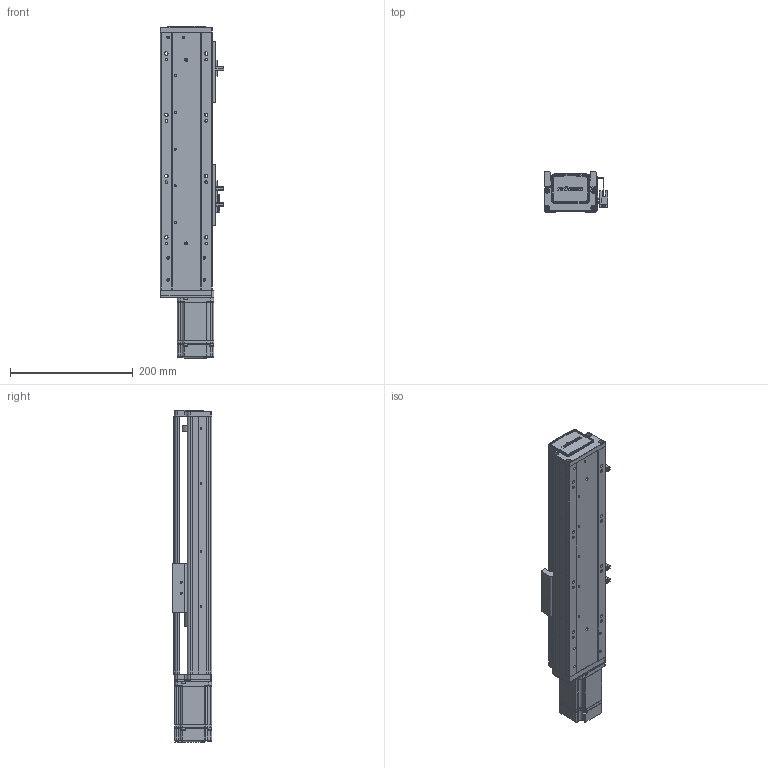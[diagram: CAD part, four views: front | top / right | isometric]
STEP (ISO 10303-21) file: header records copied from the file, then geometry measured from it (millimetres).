
FILE_DESCRIPTION (( 'STEP AP203' ), '1' );
FILE_NAME ('RY80-L1620-300-MK.SLDASM_200.step', '2021-02-20T02:32:59', ( '' ), ( '' ), 'SwSTEP 2.0', 'SolidWorks 2012', '' );
FILE_SCHEMA (( 'CONFIG_CONTROL_DESIGN' ));
Length unit declared in the file: millimetre
Products named in the file (14): RY80前盖板(100W电机 PCD46 M4); RY80綴裔啣; RY80-L1620-300-MK.SLDASM_200; RY80俋离覜茼え; 覜茼ん672; 滅袉蝶18-24; 侂狟200W萇儂; 672嫖萇羲壽假蚾釱; 滅袉蝶18-10; 1; RY80-300-MK倰第奻裔啣_200; RY80臏賑輸; RY80前盖板(200W电机)M4; RY80-300-MK倰第菁釱_200
Assembly tree (16 placements, depth 3):
  RY80-L1620-300-MK.SLDASM_200
    RY80-300-MK倰第菁釱_200
    RY80臏賑輸
    RY80-300-MK倰第奻裔啣_200
    RY80前盖板(200W电机)M4
    侂狟200W萇儂
      1
    滅袉蝶18-10
    672嫖萇羲壽假蚾釱  x2
    覜茼ん672  x3
    RY80俋离覜茼え
    滅袉蝶18-24
    RY80綴裔啣
    RY80前盖板(100W电机 PCD46 M4)
Bounding box: 103.7 x 65 x 542 mm (x, y, z)
Volume: 1118553.3 mm3; surface area: 377858.4 mm2
Topology: 15 solids, 15 shells, 1934 faces, 5306 edges, 3453 vertices
Faces by surface type: plane 1093, cylinder 661, cone 126, bspline 54
Entity records: 59967 total; most frequent: CARTESIAN_POINT 14519, ORIENTED_EDGE 9352, DIRECTION 8833, EDGE_CURVE 4676, VERTEX_POINT 3069, VECTOR 2975, LINE 2975, AXIS2_PLACEMENT_3D 2929
